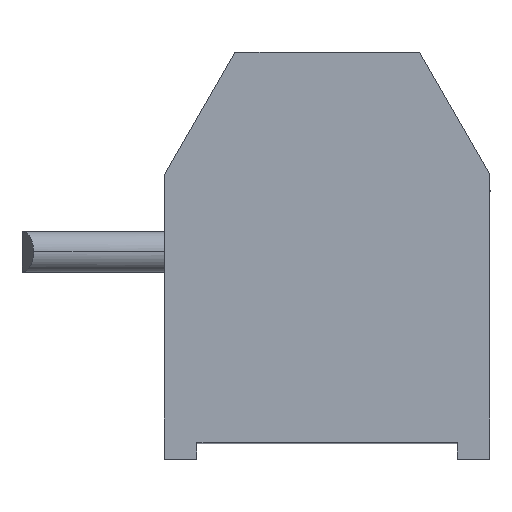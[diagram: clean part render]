
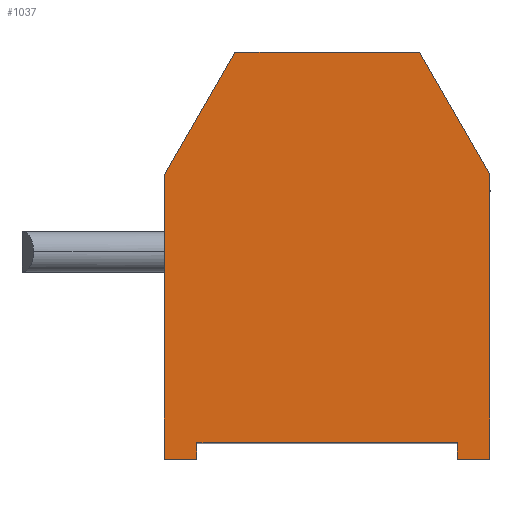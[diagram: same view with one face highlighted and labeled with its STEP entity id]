
A CAD part, top view. The second image highlights one B-rep face of the part: STEP entity #1037.
In plain terms, the highlighted planar face has unit normal (0, 0, 1).
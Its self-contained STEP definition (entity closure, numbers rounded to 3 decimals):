
#607 = VERTEX_POINT ( 'NONE', #2412 ) ;
#609 = EDGE_CURVE ( 'NONE', #610, #607, #2411, .T. ) ;
#610 = VERTEX_POINT ( 'NONE', #2407 ) ;
#707 = EDGE_CURVE ( 'NONE', #607, #787, #2519, .T. ) ;
#787 = VERTEX_POINT ( 'NONE', #2699 ) ;
#788 = VERTEX_POINT ( 'NONE', #2698 ) ;
#838 = EDGE_CURVE ( 'NONE', #610, #854, #2818, .T. ) ;
#854 = VERTEX_POINT ( 'NONE', #2805 ) ;
#856 = EDGE_CURVE ( 'NONE', #854, #869, #2804, .T. ) ;
#869 = VERTEX_POINT ( 'NONE', #2847 ) ;
#871 = EDGE_CURVE ( 'NONE', #869, #788, #2846, .T. ) ;
#889 = VERTEX_POINT ( 'NONE', #2875 ) ;
#891 = EDGE_CURVE ( 'NONE', #889, #907, #2874, .T. ) ;
#907 = VERTEX_POINT ( 'NONE', #2908 ) ;
#909 = EDGE_CURVE ( 'NONE', #907, #787, #2907, .T. ) ;
#1018 = ORIENTED_EDGE ( 'NONE', *, *, #1019, .T. ) ;
#1019 = EDGE_CURVE ( 'NONE', #1042, #1020, #3072, .T. ) ;
#1020 = VERTEX_POINT ( 'NONE', #3068 ) ;
#1021 = ORIENTED_EDGE ( 'NONE', *, *, #1022, .T. ) ;
#1022 = EDGE_CURVE ( 'NONE', #1020, #788, #3067, .T. ) ;
#1023 = ORIENTED_EDGE ( 'NONE', *, *, #871, .F. ) ;
#1024 = ORIENTED_EDGE ( 'NONE', *, *, #856, .F. ) ;
#1025 = ORIENTED_EDGE ( 'NONE', *, *, #838, .F. ) ;
#1026 = ORIENTED_EDGE ( 'NONE', *, *, #609, .T. ) ;
#1027 = ORIENTED_EDGE ( 'NONE', *, *, #707, .T. ) ;
#1028 = ORIENTED_EDGE ( 'NONE', *, *, #909, .F. ) ;
#1037 = ADVANCED_FACE ( 'NONE', ( #3053 ), #3052, .F. ) ;
#1038 = EDGE_LOOP ( 'NONE', ( #1039, #1040, #1018, #1021, #1023, #1024, #1025, #1026, #1027, #1028 ) ) ;
#1039 = ORIENTED_EDGE ( 'NONE', *, *, #891, .F. ) ;
#1040 = ORIENTED_EDGE ( 'NONE', *, *, #1041, .T. ) ;
#1041 = EDGE_CURVE ( 'NONE', #889, #1042, #3047, .T. ) ;
#1042 = VERTEX_POINT ( 'NONE', #3043 ) ;
#2407 = CARTESIAN_POINT ( 'NONE',  ( -4., 0., 0. ) ) ;
#2408 = DIRECTION ( 'NONE',  ( 1., 0., 0. ) ) ;
#2409 = VECTOR ( 'NONE', #2408, 1000. ) ;
#2410 = CARTESIAN_POINT ( 'NONE',  ( -3.6, 0., 0. ) ) ;
#2411 = LINE ( 'NONE', #2410, #2409 ) ;
#2412 = CARTESIAN_POINT ( 'NONE',  ( -3.2, 0., 0. ) ) ;
#2516 = DIRECTION ( 'NONE',  ( 0., 1., 0. ) ) ;
#2517 = VECTOR ( 'NONE', #2516, 1000. ) ;
#2518 = CARTESIAN_POINT ( 'NONE',  ( -3.2, 0.2, 0. ) ) ;
#2519 = LINE ( 'NONE', #2518, #2517 ) ;
#2698 = CARTESIAN_POINT ( 'NONE',  ( 2.268, 10., 0. ) ) ;
#2699 = CARTESIAN_POINT ( 'NONE',  ( -3.2, 0.4, 0. ) ) ;
#2801 = DIRECTION ( 'NONE',  ( 0.5, 0.866, 0. ) ) ;
#2802 = VECTOR ( 'NONE', #2801, 1000. ) ;
#2803 = CARTESIAN_POINT ( 'NONE',  ( -4., 7., 0. ) ) ;
#2804 = LINE ( 'NONE', #2803, #2802 ) ;
#2805 = CARTESIAN_POINT ( 'NONE',  ( -4., 7., 0. ) ) ;
#2815 = DIRECTION ( 'NONE',  ( 0., 1., 0. ) ) ;
#2816 = VECTOR ( 'NONE', #2815, 1000. ) ;
#2817 = CARTESIAN_POINT ( 'NONE',  ( -4., 5., 0. ) ) ;
#2818 = LINE ( 'NONE', #2817, #2816 ) ;
#2843 = DIRECTION ( 'NONE',  ( 1., 0., 0. ) ) ;
#2844 = VECTOR ( 'NONE', #2843, 1000. ) ;
#2845 = CARTESIAN_POINT ( 'NONE',  ( 0., 10., 0. ) ) ;
#2846 = LINE ( 'NONE', #2845, #2844 ) ;
#2847 = CARTESIAN_POINT ( 'NONE',  ( -2.268, 10., 0. ) ) ;
#2871 = DIRECTION ( 'NONE',  ( 0., 1., 0. ) ) ;
#2872 = VECTOR ( 'NONE', #2871, 1000. ) ;
#2873 = CARTESIAN_POINT ( 'NONE',  ( 3.2, 5., 0. ) ) ;
#2874 = LINE ( 'NONE', #2873, #2872 ) ;
#2875 = CARTESIAN_POINT ( 'NONE',  ( 3.2, 0., 0. ) ) ;
#2904 = DIRECTION ( 'NONE',  ( -1., 0., 0. ) ) ;
#2905 = VECTOR ( 'NONE', #2904, 1000. ) ;
#2906 = CARTESIAN_POINT ( 'NONE',  ( 0., 0.4, 0. ) ) ;
#2907 = LINE ( 'NONE', #2906, #2905 ) ;
#2908 = CARTESIAN_POINT ( 'NONE',  ( 3.2, 0.4, 0. ) ) ;
#3043 = CARTESIAN_POINT ( 'NONE',  ( 4., 0., 0. ) ) ;
#3044 = DIRECTION ( 'NONE',  ( 1., 0., 0. ) ) ;
#3045 = VECTOR ( 'NONE', #3044, 1000. ) ;
#3046 = CARTESIAN_POINT ( 'NONE',  ( 3.6, 0., 0. ) ) ;
#3047 = LINE ( 'NONE', #3046, #3045 ) ;
#3048 = DIRECTION ( 'NONE',  ( -1., 0., 0. ) ) ;
#3049 = DIRECTION ( 'NONE',  ( 0., 0., -1. ) ) ;
#3050 = CARTESIAN_POINT ( 'NONE',  ( 4., 0., 0. ) ) ;
#3051 = AXIS2_PLACEMENT_3D ( 'NONE', #3050, #3049, #3048 ) ;
#3052 = PLANE ( 'NONE',  #3051 ) ;
#3053 = FACE_OUTER_BOUND ( 'NONE', #1038, .T. ) ;
#3064 = DIRECTION ( 'NONE',  ( -0.5, 0.866, 0. ) ) ;
#3065 = VECTOR ( 'NONE', #3064, 1000. ) ;
#3066 = CARTESIAN_POINT ( 'NONE',  ( 3.134, 8.5, 0. ) ) ;
#3067 = LINE ( 'NONE', #3066, #3065 ) ;
#3068 = CARTESIAN_POINT ( 'NONE',  ( 4., 7., 0. ) ) ;
#3069 = DIRECTION ( 'NONE',  ( 0., 1., 0. ) ) ;
#3070 = VECTOR ( 'NONE', #3069, 1000. ) ;
#3071 = CARTESIAN_POINT ( 'NONE',  ( 4., 3.5, 0. ) ) ;
#3072 = LINE ( 'NONE', #3071, #3070 ) ;
